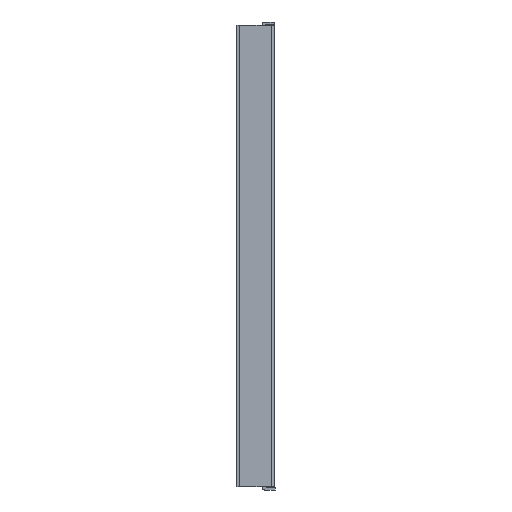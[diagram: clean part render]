
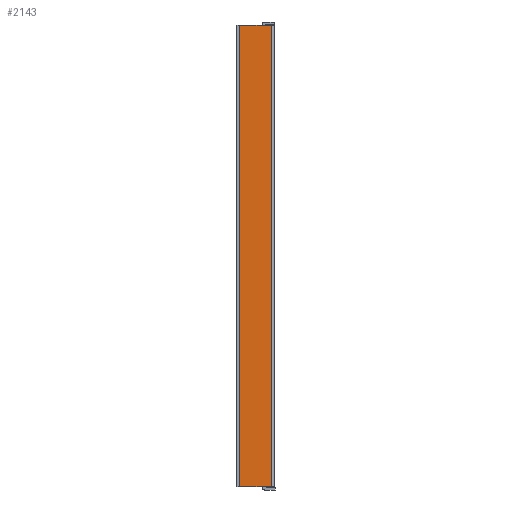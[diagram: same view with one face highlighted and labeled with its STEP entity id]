
A CAD part, front view. The second image highlights one B-rep face of the part: STEP entity #2143.
In plain terms, the highlighted planar face has unit normal (0, -1, 0).
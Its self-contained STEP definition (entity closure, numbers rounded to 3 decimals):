
#76 = FACE_OUTER_BOUND ( 'NONE', #4078, .T. ) ;
#313 = EDGE_CURVE ( 'NONE', #9749, #5810, #4766, .T. ) ;
#525 = ORIENTED_EDGE ( 'NONE', *, *, #4243, .F. ) ;
#692 = LINE ( 'NONE', #2944, #6784 ) ;
#963 = VERTEX_POINT ( 'NONE', #3138 ) ;
#984 = CARTESIAN_POINT ( 'NONE',  ( 0., 133.556, 188. ) ) ;
#1353 = EDGE_CURVE ( 'NONE', #9798, #9749, #2864, .T. ) ;
#2143 = ADVANCED_FACE ( 'NONE', ( #76 ), #2327, .T. ) ;
#2159 = ORIENTED_EDGE ( 'NONE', *, *, #7406, .F. ) ;
#2327 = PLANE ( 'NONE',  #5582 ) ;
#2864 = LINE ( 'NONE', #5978, #9153 ) ;
#2944 = CARTESIAN_POINT ( 'NONE',  ( 0., 133.556, 0. ) ) ;
#3138 = CARTESIAN_POINT ( 'NONE',  ( 438.499, 133.556, 0. ) ) ;
#3261 = DIRECTION ( 'NONE',  ( 0., 0., -1. ) ) ;
#4078 = EDGE_LOOP ( 'NONE', ( #2159, #525, #7962, #6554 ) ) ;
#4092 = DIRECTION ( 'NONE',  ( 1., 0., 0. ) ) ;
#4243 = EDGE_CURVE ( 'NONE', #9798, #963, #4638, .T. ) ;
#4554 = CARTESIAN_POINT ( 'NONE',  ( 438.499, 133.556, 188. ) ) ;
#4638 = LINE ( 'NONE', #7038, #7255 ) ;
#4688 = DIRECTION ( 'NONE',  ( 0., 0., -1. ) ) ;
#4736 = DIRECTION ( 'NONE',  ( 0., -1., 0. ) ) ;
#4766 = LINE ( 'NONE', #9495, #8661 ) ;
#5303 = DIRECTION ( 'NONE',  ( -1., 0., 0. ) ) ;
#5582 = AXIS2_PLACEMENT_3D ( 'NONE', #984, #4736, #4092 ) ;
#5810 = VERTEX_POINT ( 'NONE', #6139 ) ;
#5978 = CARTESIAN_POINT ( 'NONE',  ( 0., 133.556, 188. ) ) ;
#6139 = CARTESIAN_POINT ( 'NONE',  ( 425.599, 133.556, 0. ) ) ;
#6554 = ORIENTED_EDGE ( 'NONE', *, *, #313, .T. ) ;
#6784 = VECTOR ( 'NONE', #5303, 1000. ) ;
#7038 = CARTESIAN_POINT ( 'NONE',  ( 438.499, 133.556, 188. ) ) ;
#7056 = CARTESIAN_POINT ( 'NONE',  ( 425.599, 133.556, 188. ) ) ;
#7255 = VECTOR ( 'NONE', #4688, 1000. ) ;
#7406 = EDGE_CURVE ( 'NONE', #963, #5810, #692, .T. ) ;
#7962 = ORIENTED_EDGE ( 'NONE', *, *, #1353, .T. ) ;
#8076 = DIRECTION ( 'NONE',  ( -1., 0., 0. ) ) ;
#8661 = VECTOR ( 'NONE', #3261, 1000. ) ;
#9153 = VECTOR ( 'NONE', #8076, 1000. ) ;
#9495 = CARTESIAN_POINT ( 'NONE',  ( 425.599, 133.556, 188. ) ) ;
#9749 = VERTEX_POINT ( 'NONE', #7056 ) ;
#9798 = VERTEX_POINT ( 'NONE', #4554 ) ;
